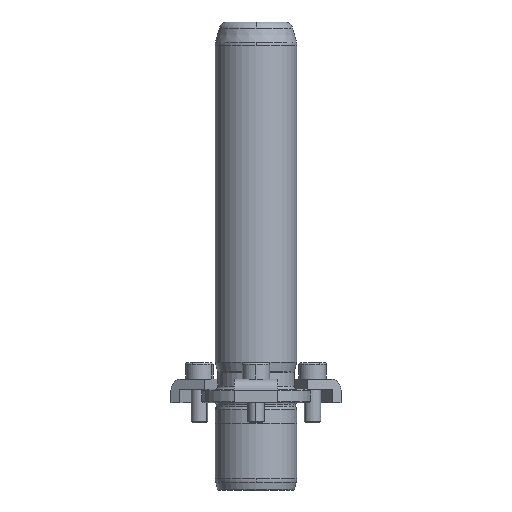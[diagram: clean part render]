
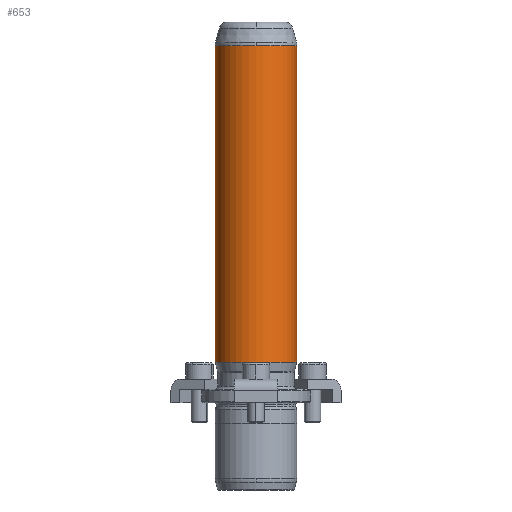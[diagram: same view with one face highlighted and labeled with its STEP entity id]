
A CAD part, front view. The second image highlights one B-rep face of the part: STEP entity #653.
In plain terms, the highlighted cylindrical face has radius 15 mm (diameter 30 mm), a partial arc.
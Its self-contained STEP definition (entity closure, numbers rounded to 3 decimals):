
#566=CARTESIAN_POINT('',(0.0,-15.,131.342));
#567=VERTEX_POINT('',#566);
#594=CARTESIAN_POINT('',(-15.0,0.,131.342));
#595=VERTEX_POINT('',#594);
#603=CARTESIAN_POINT('',(0.0,0.,131.342));
#604=DIRECTION('',(0.0,0.0,1.0));
#605=DIRECTION('',(1.0,0.0,0.0));
#606=AXIS2_PLACEMENT_3D('',#603,#604,#605);
#607=CIRCLE('',#606,15.0);
#608=EDGE_CURVE('',#595,#567,#607,.T.);
#613=CARTESIAN_POINT('',(0.0,0.,73.171));
#614=DIRECTION('',(0.0,0.,1.0));
#615=DIRECTION('',(1.0,0.0,0.0));
#616=AXIS2_PLACEMENT_3D('',#613,#614,#615);
#617=CYLINDRICAL_SURFACE('',#616,15.0);
#618=CARTESIAN_POINT('',(15.0,0.,131.342));
#619=VERTEX_POINT('',#618);
#620=CARTESIAN_POINT('',(15.0,0.,15.0));
#621=VERTEX_POINT('',#620);
#622=CARTESIAN_POINT('',(15.0,0.,131.342));
#623=DIRECTION('',(0.0,0.0,-1.0));
#624=VECTOR('',#623,116.342);
#625=LINE('',#622,#624);
#626=EDGE_CURVE('',#619,#621,#625,.T.);
#627=ORIENTED_EDGE('',*,*,#626,.F.);
#628=CARTESIAN_POINT('',(0.0,0.,131.342));
#629=DIRECTION('',(0.0,0.0,1.0));
#630=DIRECTION('',(1.0,0.0,0.0));
#631=AXIS2_PLACEMENT_3D('',#628,#629,#630);
#632=CIRCLE('',#631,15.0);
#633=EDGE_CURVE('',#567,#619,#632,.T.);
#634=ORIENTED_EDGE('',*,*,#633,.F.);
#635=ORIENTED_EDGE('',*,*,#608,.F.);
#636=CARTESIAN_POINT('',(-15.0,0.,15.0));
#637=VERTEX_POINT('',#636);
#638=CARTESIAN_POINT('',(-15.0,0.,131.342));
#639=DIRECTION('',(0.0,0.0,-1.0));
#640=VECTOR('',#639,116.342);
#641=LINE('',#638,#640);
#642=EDGE_CURVE('',#595,#637,#641,.T.);
#643=ORIENTED_EDGE('',*,*,#642,.T.);
#644=CARTESIAN_POINT('',(0.0,0.,15.0));
#645=DIRECTION('',(0.0,0.0,1.0));
#646=DIRECTION('',(1.0,0.0,0.0));
#647=AXIS2_PLACEMENT_3D('',#644,#645,#646);
#648=CIRCLE('',#647,15.0);
#649=EDGE_CURVE('',#637,#621,#648,.T.);
#650=ORIENTED_EDGE('',*,*,#649,.T.);
#651=EDGE_LOOP('',(#627,#634,#635,#643,#650));
#652=FACE_OUTER_BOUND('',#651,.T.);
#653=ADVANCED_FACE('',(#652),#617,.T.);
